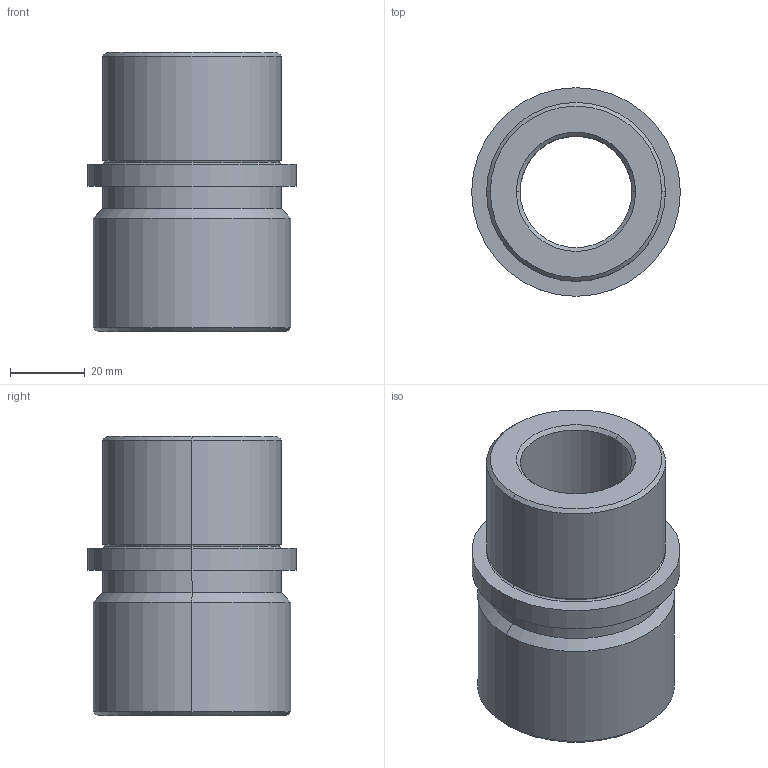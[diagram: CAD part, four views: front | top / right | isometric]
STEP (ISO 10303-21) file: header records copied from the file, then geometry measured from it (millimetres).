
FILE_DESCRIPTION (( 'STEP AP214' ), '1' );
FILE_NAME ('Casquillo SB500-30-75.STEP', '2018-11-27T08:04:58', ( '' ), ( '' ), 'SwSTEP 2.0', 'SolidWorks 2018', '' );
FILE_SCHEMA (( 'AUTOMOTIVE_DESIGN' ));
Length unit declared in the file: millimetre
Products named in the file (1): Casquillo SB500-30-75
Bounding box: 56 x 56 x 75 mm (x, y, z)
Volume: 98875.9 mm3; surface area: 22998.9 mm2
Topology: 1 solids, 1 shells, 40 faces, 80 edges, 44 vertices
Faces by surface type: cylinder 14, torus 12, cone 10, plane 4
Entity records: 1074 total; most frequent: DIRECTION 218, CARTESIAN_POINT 165, ORIENTED_EDGE 160, AXIS2_PLACEMENT_3D 97, EDGE_CURVE 80, CIRCLE 56, EDGE_LOOP 44, VERTEX_POINT 44
